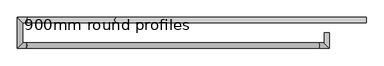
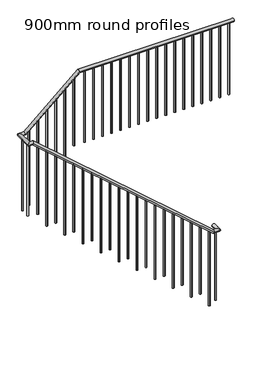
"""IFC4 building model written with IfcOpenShell, lengths in millimetres: railing geometry, 900mm round profiles."""

from ifc_helpers import new_model, si_unit, point, frame, frame_2d, origin, origin_with_axes, place, context, project, spatial, circle_curve, ellipse_curve, trimmed, segment, composite_curve, outline, extrude, source, transform, mapped, element, save
from ifc_brep_helpers import plane_surface, cylinder_surface, advanced_brep


def railing_900mm_round_profiles_ab87f60b(model_context):
    return source(origin(), model_context, "Body", "SolidModel", [
        advanced_brep(
        [(8280.0, 5880.0, 3580.0), (8280.0, 5840.0, 3580.0), (6312.4795013, 5880.0, 3580.0), (6312.4795013, 5840.0, 3580.0), (5622.4795013, 5880.0, 2980.0), (5622.4795013, 5840.0, 2980.0), (5540.0, 5880.0, 2980.0), (5580.0, 5840.0, 2980.0), (5540.0, 5640.0, 2980.0), (5580.0, 5680.0, 2980.0), (5607.5204987, 5680.0, 2980.0), (5607.5204987, 5640.0, 2980.0), (7907.5204987, 5640.0, 980.0), (7907.5204987, 5680.0, 980.0), (7990.0, 5760.0, 980.0), (7950.0, 5760.0, 980.0), (7950.0, 5680.0, 980.0), (7990.0, 5640.0, 980.0)],
        [
            (0, 1, circle_curve(frame((8280.0, 5860.0, 3580.0), z_axis=(1.0, 0.0, 0.0), x_axis=(0.0, -1.0, 0.0)), 20.0)),
            (1, 0, circle_curve(frame((8280.0, 5860.0, 3580.0), z_axis=(1.0, 0.0, 0.0), x_axis=(0.0, -1.0, 0.0)), 20.0)),
            (0, 2),
            (2, 3, ellipse_curve(frame((6312.4795013, 5860.0, 3580.0), z_axis=(0.9366444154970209, 0.0, 0.35028165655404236), x_axis=(0.35028165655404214, 0.0, -0.9366444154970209)), 21.3528204, 20.0)),
            (3, 1),
            (3, 2, ellipse_curve(frame((6312.4795013, 5860.0, 3580.0), z_axis=(0.9366444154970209, 0.0, 0.35028165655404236), x_axis=(0.35028165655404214, 0.0, -0.9366444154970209)), 21.3528204, 20.0)),
            (2, 4),
            (4, 5, ellipse_curve(frame((5622.4795013, 5860.0, 2980.0), z_axis=(0.9366444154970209, 0.0, 0.35028165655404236), x_axis=(-0.3502816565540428, 0.0, 0.9366444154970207)), 21.3528204, 20.0)),
            (5, 3),
            (5, 4, ellipse_curve(frame((5622.4795013, 5860.0, 2980.0), z_axis=(0.9366444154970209, 0.0, 0.35028165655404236), x_axis=(-0.3502816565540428, 0.0, 0.9366444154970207)), 21.3528204, 20.0)),
            (4, 6),
            (6, 7, ellipse_curve(frame((5560.0, 5860.0, 2980.0), z_axis=(0.7071067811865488, 0.7071067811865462, 0.0), x_axis=(0.7071067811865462, -0.7071067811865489, 0.0)), 28.2842712, 20.0)),
            (7, 5),
            (7, 6, ellipse_curve(frame((5560.0, 5860.0, 2980.0), z_axis=(0.7071067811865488, 0.7071067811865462, 0.0), x_axis=(0.7071067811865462, -0.7071067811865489, 0.0)), 28.2842712, 20.0)),
            (6, 8),
            (8, 9, ellipse_curve(frame((5560.0, 5660.0, 2980.0), z_axis=(-0.7071067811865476, 0.7071067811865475, 0.0), x_axis=(0.7071067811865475, 0.7071067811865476, 0.0)), 28.2842712, 20.0)),
            (9, 7),
            (9, 8, ellipse_curve(frame((5560.0, 5660.0, 2980.0), z_axis=(-0.7071067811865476, 0.7071067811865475, 0.0), x_axis=(0.7071067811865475, 0.7071067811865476, 0.0)), 28.2842712, 20.0)),
            (10, 11, ellipse_curve(frame((5607.5204987, 5660.0, 2980.0), z_axis=(0.9366444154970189, 0.0, -0.35028165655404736), x_axis=(0.350281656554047, 0.0, 0.9366444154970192)), 21.3528204, 20.0)),
            (11, 12),
            (12, 13, ellipse_curve(frame((7907.5204987, 5660.0, 980.0), z_axis=(-0.9366444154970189, 0.0, 0.35028165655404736), x_axis=(0.350281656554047, 0.0, 0.9366444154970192)), 21.3528204, 20.0)),
            (13, 10),
            (11, 10, ellipse_curve(frame((5607.5204987, 5660.0, 2980.0), z_axis=(0.9366444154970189, 0.0, -0.35028165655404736), x_axis=(0.350281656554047, 0.0, 0.9366444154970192)), 21.3528204, 20.0)),
            (13, 12, ellipse_curve(frame((7907.5204987, 5660.0, 980.0), z_axis=(-0.9366444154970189, 0.0, 0.35028165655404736), x_axis=(0.350281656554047, 0.0, 0.9366444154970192)), 21.3528204, 20.0)),
            (8, 11),
            (10, 9),
            (14, 15, circle_curve(frame((7970.0, 5760.0, 980.0), z_axis=(0.0, 1.0, 0.0), x_axis=(-1.0, 0.0, 0.0)), 20.0)),
            (15, 14, circle_curve(frame((7970.0, 5760.0, 980.0), z_axis=(0.0, 1.0, 0.0), x_axis=(-1.0, 0.0, 0.0)), 20.0)),
            (16, 17, ellipse_curve(frame((7970.0, 5660.0, 980.0), z_axis=(0.7071067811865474, 0.7071067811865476, 0.0), x_axis=(0.7071067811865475, -0.7071067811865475, 0.0)), 28.2842712, 20.0)),
            (17, 14),
            (15, 16),
            (17, 16, ellipse_curve(frame((7970.0, 5660.0, 980.0), z_axis=(0.7071067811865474, 0.7071067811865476, 0.0), x_axis=(0.7071067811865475, -0.7071067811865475, 0.0)), 28.2842712, 20.0)),
            (12, 17),
            (16, 13),
        ],
        [
            plane_surface(frame((8280.0, 5860.0, 3600.0), z_axis=(1.0, 0.0, 0.0), x_axis=(0.0, -1.0, 0.0))),
            cylinder_surface(frame((8280.0, 5860.0, 3580.0), z_axis=(1.0, 0.0, 0.0), x_axis=(0.0, -1.0, 0.0)), 20.0),
            cylinder_surface(frame((6318.1235743, 5860.0, 3584.9078896), z_axis=(0.7546055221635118, 0.0, 0.6561787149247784), x_axis=(0.0, -1.0, 0.0)), 20.0),
            cylinder_surface(frame((5615.0, 5860.0, 2980.0), z_axis=(1.0, 0.0, 0.0), x_axis=(0.0, -1.0, 0.0)), 20.0),
            cylinder_surface(frame((5560.0, 5860.0, 2980.0), z_axis=(0.0, 1.0, 0.0), x_axis=(1.0, 0.0, 0.0)), 20.0),
            cylinder_surface(frame((5601.8764257, 5660.0, 2984.9078896), z_axis=(-0.7546055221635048, 0.0, 0.6561787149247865), x_axis=(0.0, 1.0, 0.0)), 20.0),
            cylinder_surface(frame((5560.0, 5660.0, 2980.0), z_axis=(-1.0, 0.0, 0.0), x_axis=(0.0, 1.0, 0.0)), 20.0),
            plane_surface(frame((7970.0, 5760.0, 1000.0), z_axis=(0.0, 1.0, 0.0), x_axis=(0.0, 0.0, 1.0))),
            cylinder_surface(frame((7970.0, 5660.0, 980.0), z_axis=(0.0, -1.0, 0.0), x_axis=(-1.0, 0.0, 0.0)), 20.0),
            cylinder_surface(frame((7915.0, 5660.0, 980.0), z_axis=(-1.0, 0.0, 0.0), x_axis=(0.0, 1.0, 0.0)), 20.0),
        ],
        [
            (0, [[1, 2]]),
            (1, [[-1, 3, 4, 5]]),
            (1, [[-2, -5, 6, -3]]),
            (2, [[-4, 7, 8, 9]]),
            (2, [[-6, -9, 10, -7]]),
            (3, [[-8, 11, 12, 13]]),
            (3, [[-10, -13, 14, -11]]),
            (4, [[-12, 15, 16, 17]]),
            (4, [[-14, -17, 18, -15]]),
            (5, [[19, 20, 21, 22]]),
            (5, [[23, -22, 24, -20]]),
            (6, [[-16, 25, -19, 26]]),
            (6, [[-18, -26, -23, -25]]),
            (7, [[27, 28]]),
            (8, [[29, 30, -28, 31]]),
            (8, [[32, -31, -27, -30]]),
            (9, [[-21, 33, -29, 34]]),
            (9, [[-24, -34, -32, -33]]),
        ],
    ),
        extrude(outline(composite_curve([segment(trimmed(circle_curve(frame_2d((7970.0, 5717.5)), 10.0), [point((7980.0, 5717.5))], [point((7960.0, 5717.5))], False, "CARTESIAN"), True, "CONTINUOUS"), segment(trimmed(circle_curve(frame_2d((7970.0, 5717.5)), 10.0), [point((7960.0, 5717.5))], [point((7980.0, 5717.5))], False, "CARTESIAN"), True, "CONTINUOUS")], self_intersect=False)), origin_with_axes(), (0.0, 0.0, 1.0), 960.0),
        advanced_brep(
        [(7857.5, 5670.0, 996.9921716), (7857.5, 5650.0, 996.9921716), (7857.5, 5650.0, 0.0), (7857.5, 5670.0, 0.0)],
        [
            (0, 1, ellipse_curve(frame((7857.5, 5660.0, 996.9921716), z_axis=(-0.6561787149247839, 0.0, -0.7546055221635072), x_axis=(-0.7546055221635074, 0.0, 0.6561787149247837)), 13.2519571, 10.0)),
            (1, 2),
            (2, 3, circle_curve(frame((7857.5, 5660.0, 0.0), z_axis=(0.0, 0.0, 1.0), x_axis=(0.0, -1.0, 0.0)), 10.0)),
            (3, 0),
            (3, 2, circle_curve(frame((7857.5, 5660.0, 0.0), z_axis=(0.0, 0.0, 1.0), x_axis=(0.0, -1.0, 0.0)), 10.0)),
            (1, 0, ellipse_curve(frame((7857.5, 5660.0, 996.9921716), z_axis=(-0.6561787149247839, 0.0, -0.7546055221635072), x_axis=(-0.7546055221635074, 0.0, 0.6561787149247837)), 13.2519571, 10.0)),
        ],
        [
            cylinder_surface(frame((7857.5, 5660.0, -100.0), z_axis=(0.0, 0.0, 1.0), x_axis=(0.0, -1.0, 0.0)), 10.0),
            plane_surface(frame((7877.5, 5640.0, 979.6008673), z_axis=(0.6561787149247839, 0.0, 0.7546055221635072), x_axis=(0.0, 1.0, 0.0))),
            plane_surface(frame((7837.5, 5640.0, 0.0), z_axis=(0.0, 0.0, -1.0), x_axis=(0.0, 1.0, 0.0))),
        ],
        [
            (0, [[1, 2, 3, 4]]),
            (0, [[5, -2, 6, -4]]),
            (1, [[-6, -1]]),
            (2, [[-5, -3]]),
        ],
    ),
        advanced_brep(
        [(7742.5, 5670.0, 1096.9921716), (7742.5, 5650.0, 1096.9921716), (7742.5, 5650.0, 200.0), (7742.5, 5670.0, 200.0)],
        [
            (0, 1, ellipse_curve(frame((7742.5, 5660.0, 1096.9921716), z_axis=(-0.6561787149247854, 0.0, -0.754605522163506), x_axis=(-0.754605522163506, 0.0, 0.656178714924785)), 13.2519571, 10.0)),
            (1, 2),
            (2, 3, circle_curve(frame((7742.5, 5660.0, 200.0), z_axis=(0.0, 0.0, 1.0), x_axis=(0.0, -1.0, 0.0)), 10.0)),
            (3, 0),
            (3, 2, circle_curve(frame((7742.5, 5660.0, 200.0), z_axis=(0.0, 0.0, 1.0), x_axis=(0.0, -1.0, 0.0)), 10.0)),
            (1, 0, ellipse_curve(frame((7742.5, 5660.0, 1096.9921716), z_axis=(-0.6561787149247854, 0.0, -0.754605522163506), x_axis=(-0.754605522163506, 0.0, 0.656178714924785)), 13.2519571, 10.0)),
        ],
        [
            cylinder_surface(frame((7742.5, 5660.0, 100.0), z_axis=(0.0, 0.0, 1.0), x_axis=(0.0, -1.0, 0.0)), 10.0),
            plane_surface(frame((7762.5, 5640.0, 1079.6008673), z_axis=(0.6561787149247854, 0.0, 0.754605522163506), x_axis=(0.0, 1.0, 0.0))),
            plane_surface(frame((7722.5, 5640.0, 200.0), z_axis=(0.0, 0.0, -1.0), x_axis=(0.0, 1.0, 0.0))),
        ],
        [
            (0, [[1, 2, 3, 4]]),
            (0, [[5, -2, 6, -4]]),
            (1, [[-6, -1]]),
            (2, [[-5, -3]]),
        ],
    ),
        advanced_brep(
        [(7627.5, 5670.0, 1196.9921716), (7627.5, 5650.0, 1196.9921716), (7627.5, 5650.0, 200.0), (7627.5, 5670.0, 200.0)],
        [
            (0, 1, ellipse_curve(frame((7627.5, 5660.0, 1196.9921716), z_axis=(-0.6561787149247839, 0.0, -0.7546055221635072), x_axis=(-0.7546055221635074, 0.0, 0.6561787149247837)), 13.2519571, 10.0)),
            (1, 2),
            (2, 3, circle_curve(frame((7627.5, 5660.0, 200.0), z_axis=(0.0, 0.0, 1.0), x_axis=(0.0, -1.0, 0.0)), 10.0)),
            (3, 0),
            (3, 2, circle_curve(frame((7627.5, 5660.0, 200.0), z_axis=(0.0, 0.0, 1.0), x_axis=(0.0, -1.0, 0.0)), 10.0)),
            (1, 0, ellipse_curve(frame((7627.5, 5660.0, 1196.9921716), z_axis=(-0.6561787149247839, 0.0, -0.7546055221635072), x_axis=(-0.7546055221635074, 0.0, 0.6561787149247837)), 13.2519571, 10.0)),
        ],
        [
            cylinder_surface(frame((7627.5, 5660.0, 100.0), z_axis=(0.0, 0.0, 1.0), x_axis=(0.0, -1.0, 0.0)), 10.0),
            plane_surface(frame((7647.5, 5640.0, 1179.6008673), z_axis=(0.6561787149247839, 0.0, 0.7546055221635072), x_axis=(0.0, 1.0, 0.0))),
            plane_surface(frame((7607.5, 5640.0, 200.0), z_axis=(0.0, 0.0, -1.0), x_axis=(0.0, 1.0, 0.0))),
        ],
        [
            (0, [[1, 2, 3, 4]]),
            (0, [[5, -2, 6, -4]]),
            (1, [[-6, -1]]),
            (2, [[-5, -3]]),
        ],
    ),
        advanced_brep(
        [(7512.5, 5670.0, 1296.9921716), (7512.5, 5650.0, 1296.9921716), (7512.5, 5650.0, 400.0), (7512.5, 5670.0, 400.0)],
        [
            (0, 1, ellipse_curve(frame((7512.5, 5660.0, 1296.9921716), z_axis=(-0.6561787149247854, 0.0, -0.754605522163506), x_axis=(-0.754605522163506, 0.0, 0.656178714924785)), 13.2519571, 10.0)),
            (1, 2),
            (2, 3, circle_curve(frame((7512.5, 5660.0, 400.0), z_axis=(0.0, 0.0, 1.0), x_axis=(0.0, -1.0, 0.0)), 10.0)),
            (3, 0),
            (3, 2, circle_curve(frame((7512.5, 5660.0, 400.0), z_axis=(0.0, 0.0, 1.0), x_axis=(0.0, -1.0, 0.0)), 10.0)),
            (1, 0, ellipse_curve(frame((7512.5, 5660.0, 1296.9921716), z_axis=(-0.6561787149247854, 0.0, -0.754605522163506), x_axis=(-0.754605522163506, 0.0, 0.656178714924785)), 13.2519571, 10.0)),
        ],
        [
            cylinder_surface(frame((7512.5, 5660.0, 300.0), z_axis=(0.0, 0.0, 1.0), x_axis=(0.0, -1.0, 0.0)), 10.0),
            plane_surface(frame((7532.5, 5640.0, 1279.6008673), z_axis=(0.6561787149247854, 0.0, 0.754605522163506), x_axis=(0.0, 1.0, 0.0))),
            plane_surface(frame((7492.5, 5640.0, 400.0), z_axis=(0.0, 0.0, -1.0), x_axis=(0.0, 1.0, 0.0))),
        ],
        [
            (0, [[1, 2, 3, 4]]),
            (0, [[5, -2, 6, -4]]),
            (1, [[-6, -1]]),
            (2, [[-5, -3]]),
        ],
    ),
        advanced_brep(
        [(7397.5, 5670.0, 1396.9921716), (7397.5, 5650.0, 1396.9921716), (7397.5, 5650.0, 400.0), (7397.5, 5670.0, 400.0)],
        [
            (0, 1, ellipse_curve(frame((7397.5, 5660.0, 1396.9921716), z_axis=(-0.6561787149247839, 0.0, -0.7546055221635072), x_axis=(-0.7546055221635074, 0.0, 0.6561787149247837)), 13.2519571, 10.0)),
            (1, 2),
            (2, 3, circle_curve(frame((7397.5, 5660.0, 400.0), z_axis=(0.0, 0.0, 1.0), x_axis=(0.0, -1.0, 0.0)), 10.0)),
            (3, 0),
            (3, 2, circle_curve(frame((7397.5, 5660.0, 400.0), z_axis=(0.0, 0.0, 1.0), x_axis=(0.0, -1.0, 0.0)), 10.0)),
            (1, 0, ellipse_curve(frame((7397.5, 5660.0, 1396.9921716), z_axis=(-0.6561787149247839, 0.0, -0.7546055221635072), x_axis=(-0.7546055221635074, 0.0, 0.6561787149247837)), 13.2519571, 10.0)),
        ],
        [
            cylinder_surface(frame((7397.5, 5660.0, 300.0), z_axis=(0.0, 0.0, 1.0), x_axis=(0.0, -1.0, 0.0)), 10.0),
            plane_surface(frame((7417.5, 5640.0, 1379.6008673), z_axis=(0.6561787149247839, 0.0, 0.7546055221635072), x_axis=(0.0, 1.0, 0.0))),
            plane_surface(frame((7377.5, 5640.0, 400.0), z_axis=(0.0, 0.0, -1.0), x_axis=(0.0, 1.0, 0.0))),
        ],
        [
            (0, [[1, 2, 3, 4]]),
            (0, [[5, -2, 6, -4]]),
            (1, [[-6, -1]]),
            (2, [[-5, -3]]),
        ],
    ),
        advanced_brep(
        [(7282.5, 5670.0, 1496.9921716), (7282.5, 5650.0, 1496.9921716), (7282.5, 5650.0, 600.0), (7282.5, 5670.0, 600.0)],
        [
            (0, 1, ellipse_curve(frame((7282.5, 5660.0, 1496.9921716), z_axis=(-0.6561787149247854, 0.0, -0.754605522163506), x_axis=(-0.754605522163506, 0.0, 0.656178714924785)), 13.2519571, 10.0)),
            (1, 2),
            (2, 3, circle_curve(frame((7282.5, 5660.0, 600.0), z_axis=(0.0, 0.0, 1.0), x_axis=(0.0, -1.0, 0.0)), 10.0)),
            (3, 0),
            (3, 2, circle_curve(frame((7282.5, 5660.0, 600.0), z_axis=(0.0, 0.0, 1.0), x_axis=(0.0, -1.0, 0.0)), 10.0)),
            (1, 0, ellipse_curve(frame((7282.5, 5660.0, 1496.9921716), z_axis=(-0.6561787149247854, 0.0, -0.754605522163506), x_axis=(-0.754605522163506, 0.0, 0.656178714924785)), 13.2519571, 10.0)),
        ],
        [
            cylinder_surface(frame((7282.5, 5660.0, 500.0), z_axis=(0.0, 0.0, 1.0), x_axis=(0.0, -1.0, 0.0)), 10.0),
            plane_surface(frame((7302.5, 5640.0, 1479.6008673), z_axis=(0.6561787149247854, 0.0, 0.754605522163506), x_axis=(0.0, 1.0, 0.0))),
            plane_surface(frame((7262.5, 5640.0, 600.0), z_axis=(0.0, 0.0, -1.0), x_axis=(0.0, 1.0, 0.0))),
        ],
        [
            (0, [[1, 2, 3, 4]]),
            (0, [[5, -2, 6, -4]]),
            (1, [[-6, -1]]),
            (2, [[-5, -3]]),
        ],
    ),
        advanced_brep(
        [(7167.5, 5670.0, 1596.9921716), (7167.5, 5650.0, 1596.9921716), (7167.5, 5650.0, 600.0), (7167.5, 5670.0, 600.0)],
        [
            (0, 1, ellipse_curve(frame((7167.5, 5660.0, 1596.9921716), z_axis=(-0.6561787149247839, 0.0, -0.7546055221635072), x_axis=(-0.7546055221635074, 0.0, 0.6561787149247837)), 13.2519571, 10.0)),
            (1, 2),
            (2, 3, circle_curve(frame((7167.5, 5660.0, 600.0), z_axis=(0.0, 0.0, 1.0), x_axis=(0.0, -1.0, 0.0)), 10.0)),
            (3, 0),
            (3, 2, circle_curve(frame((7167.5, 5660.0, 600.0), z_axis=(0.0, 0.0, 1.0), x_axis=(0.0, -1.0, 0.0)), 10.0)),
            (1, 0, ellipse_curve(frame((7167.5, 5660.0, 1596.9921716), z_axis=(-0.6561787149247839, 0.0, -0.7546055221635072), x_axis=(-0.7546055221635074, 0.0, 0.6561787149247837)), 13.2519571, 10.0)),
        ],
        [
            cylinder_surface(frame((7167.5, 5660.0, 500.0), z_axis=(0.0, 0.0, 1.0), x_axis=(0.0, -1.0, 0.0)), 10.0),
            plane_surface(frame((7187.5, 5640.0, 1579.6008673), z_axis=(0.6561787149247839, 0.0, 0.7546055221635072), x_axis=(0.0, 1.0, 0.0))),
            plane_surface(frame((7147.5, 5640.0, 600.0), z_axis=(0.0, 0.0, -1.0), x_axis=(0.0, 1.0, 0.0))),
        ],
        [
            (0, [[1, 2, 3, 4]]),
            (0, [[5, -2, 6, -4]]),
            (1, [[-6, -1]]),
            (2, [[-5, -3]]),
        ],
    ),
        advanced_brep(
        [(7052.5, 5670.0, 1696.9921716), (7052.5, 5650.0, 1696.9921716), (7052.5, 5650.0, 800.0), (7052.5, 5670.0, 800.0)],
        [
            (0, 1, ellipse_curve(frame((7052.5, 5660.0, 1696.9921716), z_axis=(-0.6561787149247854, 0.0, -0.754605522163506), x_axis=(-0.754605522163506, 0.0, 0.656178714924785)), 13.2519571, 10.0)),
            (1, 2),
            (2, 3, circle_curve(frame((7052.5, 5660.0, 800.0), z_axis=(0.0, 0.0, 1.0), x_axis=(0.0, -1.0, 0.0)), 10.0)),
            (3, 0),
            (3, 2, circle_curve(frame((7052.5, 5660.0, 800.0), z_axis=(0.0, 0.0, 1.0), x_axis=(0.0, -1.0, 0.0)), 10.0)),
            (1, 0, ellipse_curve(frame((7052.5, 5660.0, 1696.9921716), z_axis=(-0.6561787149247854, 0.0, -0.754605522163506), x_axis=(-0.754605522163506, 0.0, 0.656178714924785)), 13.2519571, 10.0)),
        ],
        [
            cylinder_surface(frame((7052.5, 5660.0, 700.0), z_axis=(0.0, 0.0, 1.0), x_axis=(0.0, -1.0, 0.0)), 10.0),
            plane_surface(frame((7072.5, 5640.0, 1679.6008673), z_axis=(0.6561787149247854, 0.0, 0.754605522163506), x_axis=(0.0, 1.0, 0.0))),
            plane_surface(frame((7032.5, 5640.0, 800.0), z_axis=(0.0, 0.0, -1.0), x_axis=(0.0, 1.0, 0.0))),
        ],
        [
            (0, [[1, 2, 3, 4]]),
            (0, [[5, -2, 6, -4]]),
            (1, [[-6, -1]]),
            (2, [[-5, -3]]),
        ],
    ),
        advanced_brep(
        [(6937.5, 5670.0, 1796.9921716), (6937.5, 5650.0, 1796.9921716), (6937.5, 5650.0, 800.0), (6937.5, 5670.0, 800.0)],
        [
            (0, 1, ellipse_curve(frame((6937.5, 5660.0, 1796.9921716), z_axis=(-0.6561787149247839, 0.0, -0.7546055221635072), x_axis=(-0.7546055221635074, 0.0, 0.6561787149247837)), 13.2519571, 10.0)),
            (1, 2),
            (2, 3, circle_curve(frame((6937.5, 5660.0, 800.0), z_axis=(0.0, 0.0, 1.0), x_axis=(0.0, -1.0, 0.0)), 10.0)),
            (3, 0),
            (3, 2, circle_curve(frame((6937.5, 5660.0, 800.0), z_axis=(0.0, 0.0, 1.0), x_axis=(0.0, -1.0, 0.0)), 10.0)),
            (1, 0, ellipse_curve(frame((6937.5, 5660.0, 1796.9921716), z_axis=(-0.6561787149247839, 0.0, -0.7546055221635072), x_axis=(-0.7546055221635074, 0.0, 0.6561787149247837)), 13.2519571, 10.0)),
        ],
        [
            cylinder_surface(frame((6937.5, 5660.0, 700.0), z_axis=(0.0, 0.0, 1.0), x_axis=(0.0, -1.0, 0.0)), 10.0),
            plane_surface(frame((6957.5, 5640.0, 1779.6008673), z_axis=(0.6561787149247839, 0.0, 0.7546055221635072), x_axis=(0.0, 1.0, 0.0))),
            plane_surface(frame((6917.5, 5640.0, 800.0), z_axis=(0.0, 0.0, -1.0), x_axis=(0.0, 1.0, 0.0))),
        ],
        [
            (0, [[1, 2, 3, 4]]),
            (0, [[5, -2, 6, -4]]),
            (1, [[-6, -1]]),
            (2, [[-5, -3]]),
        ],
    ),
        advanced_brep(
        [(6822.5, 5670.0, 1896.9921716), (6822.5, 5650.0, 1896.9921716), (6822.5, 5650.0, 1000.0), (6822.5, 5670.0, 1000.0)],
        [
            (0, 1, ellipse_curve(frame((6822.5, 5660.0, 1896.9921716), z_axis=(-0.6561787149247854, 0.0, -0.754605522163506), x_axis=(-0.754605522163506, 0.0, 0.656178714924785)), 13.2519571, 10.0)),
            (1, 2),
            (2, 3, circle_curve(frame((6822.5, 5660.0, 1000.0), z_axis=(0.0, 0.0, 1.0), x_axis=(0.0, -1.0, 0.0)), 10.0)),
            (3, 0),
            (3, 2, circle_curve(frame((6822.5, 5660.0, 1000.0), z_axis=(0.0, 0.0, 1.0), x_axis=(0.0, -1.0, 0.0)), 10.0)),
            (1, 0, ellipse_curve(frame((6822.5, 5660.0, 1896.9921716), z_axis=(-0.6561787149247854, 0.0, -0.754605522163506), x_axis=(-0.754605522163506, 0.0, 0.656178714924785)), 13.2519571, 10.0)),
        ],
        [
            cylinder_surface(frame((6822.5, 5660.0, 900.0), z_axis=(0.0, 0.0, 1.0), x_axis=(0.0, -1.0, 0.0)), 10.0),
            plane_surface(frame((6842.5, 5640.0, 1879.6008673), z_axis=(0.6561787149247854, 0.0, 0.754605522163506), x_axis=(0.0, 1.0, 0.0))),
            plane_surface(frame((6802.5, 5640.0, 1000.0), z_axis=(0.0, 0.0, -1.0), x_axis=(0.0, 1.0, 0.0))),
        ],
        [
            (0, [[1, 2, 3, 4]]),
            (0, [[5, -2, 6, -4]]),
            (1, [[-6, -1]]),
            (2, [[-5, -3]]),
        ],
    ),
        advanced_brep(
        [(6707.5, 5670.0, 1996.9921716), (6707.5, 5650.0, 1996.9921716), (6707.5, 5650.0, 1000.0), (6707.5, 5670.0, 1000.0)],
        [
            (0, 1, ellipse_curve(frame((6707.5, 5660.0, 1996.9921716), z_axis=(-0.6561787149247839, 0.0, -0.7546055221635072), x_axis=(-0.7546055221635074, 0.0, 0.6561787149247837)), 13.2519571, 10.0)),
            (1, 2),
            (2, 3, circle_curve(frame((6707.5, 5660.0, 1000.0), z_axis=(0.0, 0.0, 1.0), x_axis=(0.0, -1.0, 0.0)), 10.0)),
            (3, 0),
            (3, 2, circle_curve(frame((6707.5, 5660.0, 1000.0), z_axis=(0.0, 0.0, 1.0), x_axis=(0.0, -1.0, 0.0)), 10.0)),
            (1, 0, ellipse_curve(frame((6707.5, 5660.0, 1996.9921716), z_axis=(-0.6561787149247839, 0.0, -0.7546055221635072), x_axis=(-0.7546055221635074, 0.0, 0.6561787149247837)), 13.2519571, 10.0)),
        ],
        [
            cylinder_surface(frame((6707.5, 5660.0, 900.0), z_axis=(0.0, 0.0, 1.0), x_axis=(0.0, -1.0, 0.0)), 10.0),
            plane_surface(frame((6727.5, 5640.0, 1979.6008673), z_axis=(0.6561787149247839, 0.0, 0.7546055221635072), x_axis=(0.0, 1.0, 0.0))),
            plane_surface(frame((6687.5, 5640.0, 1000.0), z_axis=(0.0, 0.0, -1.0), x_axis=(0.0, 1.0, 0.0))),
        ],
        [
            (0, [[1, 2, 3, 4]]),
            (0, [[5, -2, 6, -4]]),
            (1, [[-6, -1]]),
            (2, [[-5, -3]]),
        ],
    ),
        advanced_brep(
        [(6592.5, 5670.0, 2096.9921716), (6592.5, 5650.0, 2096.9921716), (6592.5, 5650.0, 1200.0), (6592.5, 5670.0, 1200.0)],
        [
            (0, 1, ellipse_curve(frame((6592.5, 5660.0, 2096.9921716), z_axis=(-0.6561787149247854, 0.0, -0.754605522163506), x_axis=(-0.754605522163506, 0.0, 0.656178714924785)), 13.2519571, 10.0)),
            (1, 2),
            (2, 3, circle_curve(frame((6592.5, 5660.0, 1200.0), z_axis=(0.0, 0.0, 1.0), x_axis=(0.0, -1.0, 0.0)), 10.0)),
            (3, 0),
            (3, 2, circle_curve(frame((6592.5, 5660.0, 1200.0), z_axis=(0.0, 0.0, 1.0), x_axis=(0.0, -1.0, 0.0)), 10.0)),
            (1, 0, ellipse_curve(frame((6592.5, 5660.0, 2096.9921716), z_axis=(-0.6561787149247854, 0.0, -0.754605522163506), x_axis=(-0.754605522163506, 0.0, 0.656178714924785)), 13.2519571, 10.0)),
        ],
        [
            cylinder_surface(frame((6592.5, 5660.0, 1100.0), z_axis=(0.0, 0.0, 1.0), x_axis=(0.0, -1.0, 0.0)), 10.0),
            plane_surface(frame((6612.5, 5640.0, 2079.6008673), z_axis=(0.6561787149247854, 0.0, 0.754605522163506), x_axis=(0.0, 1.0, 0.0))),
            plane_surface(frame((6572.5, 5640.0, 1200.0), z_axis=(0.0, 0.0, -1.0), x_axis=(0.0, 1.0, 0.0))),
        ],
        [
            (0, [[1, 2, 3, 4]]),
            (0, [[5, -2, 6, -4]]),
            (1, [[-6, -1]]),
            (2, [[-5, -3]]),
        ],
    ),
        advanced_brep(
        [(6477.5, 5670.0, 2196.9921716), (6477.5, 5650.0, 2196.9921716), (6477.5, 5650.0, 1200.0), (6477.5, 5670.0, 1200.0)],
        [
            (0, 1, ellipse_curve(frame((6477.5, 5660.0, 2196.9921716), z_axis=(-0.6561787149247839, 0.0, -0.7546055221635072), x_axis=(-0.7546055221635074, 0.0, 0.6561787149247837)), 13.2519571, 10.0)),
            (1, 2),
            (2, 3, circle_curve(frame((6477.5, 5660.0, 1200.0), z_axis=(0.0, 0.0, 1.0), x_axis=(0.0, -1.0, 0.0)), 10.0)),
            (3, 0),
            (3, 2, circle_curve(frame((6477.5, 5660.0, 1200.0), z_axis=(0.0, 0.0, 1.0), x_axis=(0.0, -1.0, 0.0)), 10.0)),
            (1, 0, ellipse_curve(frame((6477.5, 5660.0, 2196.9921716), z_axis=(-0.6561787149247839, 0.0, -0.7546055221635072), x_axis=(-0.7546055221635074, 0.0, 0.6561787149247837)), 13.2519571, 10.0)),
        ],
        [
            cylinder_surface(frame((6477.5, 5660.0, 1100.0), z_axis=(0.0, 0.0, 1.0), x_axis=(0.0, -1.0, 0.0)), 10.0),
            plane_surface(frame((6497.5, 5640.0, 2179.6008673), z_axis=(0.6561787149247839, 0.0, 0.7546055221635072), x_axis=(0.0, 1.0, 0.0))),
            plane_surface(frame((6457.5, 5640.0, 1200.0), z_axis=(0.0, 0.0, -1.0), x_axis=(0.0, 1.0, 0.0))),
        ],
        [
            (0, [[1, 2, 3, 4]]),
            (0, [[5, -2, 6, -4]]),
            (1, [[-6, -1]]),
            (2, [[-5, -3]]),
        ],
    ),
        advanced_brep(
        [(6362.5, 5670.0, 2296.9921716), (6362.5, 5650.0, 2296.9921716), (6362.5, 5650.0, 1400.0), (6362.5, 5670.0, 1400.0)],
        [
            (0, 1, ellipse_curve(frame((6362.5, 5660.0, 2296.9921716), z_axis=(-0.6561787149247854, 0.0, -0.754605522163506), x_axis=(-0.754605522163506, 0.0, 0.656178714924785)), 13.2519571, 10.0)),
            (1, 2),
            (2, 3, circle_curve(frame((6362.5, 5660.0, 1400.0), z_axis=(0.0, 0.0, 1.0), x_axis=(0.0, -1.0, 0.0)), 10.0)),
            (3, 0),
            (3, 2, circle_curve(frame((6362.5, 5660.0, 1400.0), z_axis=(0.0, 0.0, 1.0), x_axis=(0.0, -1.0, 0.0)), 10.0)),
            (1, 0, ellipse_curve(frame((6362.5, 5660.0, 2296.9921716), z_axis=(-0.6561787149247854, 0.0, -0.754605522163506), x_axis=(-0.754605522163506, 0.0, 0.656178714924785)), 13.2519571, 10.0)),
        ],
        [
            cylinder_surface(frame((6362.5, 5660.0, 1300.0), z_axis=(0.0, 0.0, 1.0), x_axis=(0.0, -1.0, 0.0)), 10.0),
            plane_surface(frame((6382.5, 5640.0, 2279.6008673), z_axis=(0.6561787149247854, 0.0, 0.754605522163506), x_axis=(0.0, 1.0, 0.0))),
            plane_surface(frame((6342.5, 5640.0, 1400.0), z_axis=(0.0, 0.0, -1.0), x_axis=(0.0, 1.0, 0.0))),
        ],
        [
            (0, [[1, 2, 3, 4]]),
            (0, [[5, -2, 6, -4]]),
            (1, [[-6, -1]]),
            (2, [[-5, -3]]),
        ],
    ),
        advanced_brep(
        [(6247.5, 5670.0, 2396.9921716), (6247.5, 5650.0, 2396.9921716), (6247.5, 5650.0, 1400.0), (6247.5, 5670.0, 1400.0)],
        [
            (0, 1, ellipse_curve(frame((6247.5, 5660.0, 2396.9921716), z_axis=(-0.6561787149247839, 0.0, -0.7546055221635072), x_axis=(-0.7546055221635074, 0.0, 0.6561787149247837)), 13.2519571, 10.0)),
            (1, 2),
            (2, 3, circle_curve(frame((6247.5, 5660.0, 1400.0), z_axis=(0.0, 0.0, 1.0), x_axis=(0.0, -1.0, 0.0)), 10.0)),
            (3, 0),
            (3, 2, circle_curve(frame((6247.5, 5660.0, 1400.0), z_axis=(0.0, 0.0, 1.0), x_axis=(0.0, -1.0, 0.0)), 10.0)),
            (1, 0, ellipse_curve(frame((6247.5, 5660.0, 2396.9921716), z_axis=(-0.6561787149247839, 0.0, -0.7546055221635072), x_axis=(-0.7546055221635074, 0.0, 0.6561787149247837)), 13.2519571, 10.0)),
        ],
        [
            cylinder_surface(frame((6247.5, 5660.0, 1300.0), z_axis=(0.0, 0.0, 1.0), x_axis=(0.0, -1.0, 0.0)), 10.0),
            plane_surface(frame((6267.5, 5640.0, 2379.6008673), z_axis=(0.6561787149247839, 0.0, 0.7546055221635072), x_axis=(0.0, 1.0, 0.0))),
            plane_surface(frame((6227.5, 5640.0, 1400.0), z_axis=(0.0, 0.0, -1.0), x_axis=(0.0, 1.0, 0.0))),
        ],
        [
            (0, [[1, 2, 3, 4]]),
            (0, [[5, -2, 6, -4]]),
            (1, [[-6, -1]]),
            (2, [[-5, -3]]),
        ],
    ),
        advanced_brep(
        [(6132.5, 5670.0, 2496.9921716), (6132.5, 5650.0, 2496.9921716), (6132.5, 5650.0, 1600.0), (6132.5, 5670.0, 1600.0)],
        [
            (0, 1, ellipse_curve(frame((6132.5, 5660.0, 2496.9921716), z_axis=(-0.6561787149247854, 0.0, -0.754605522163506), x_axis=(-0.754605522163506, 0.0, 0.656178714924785)), 13.2519571, 10.0)),
            (1, 2),
            (2, 3, circle_curve(frame((6132.5, 5660.0, 1600.0), z_axis=(0.0, 0.0, 1.0), x_axis=(0.0, -1.0, 0.0)), 10.0)),
            (3, 0),
            (3, 2, circle_curve(frame((6132.5, 5660.0, 1600.0), z_axis=(0.0, 0.0, 1.0), x_axis=(0.0, -1.0, 0.0)), 10.0)),
            (1, 0, ellipse_curve(frame((6132.5, 5660.0, 2496.9921716), z_axis=(-0.6561787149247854, 0.0, -0.754605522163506), x_axis=(-0.754605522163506, 0.0, 0.656178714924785)), 13.2519571, 10.0)),
        ],
        [
            cylinder_surface(frame((6132.5, 5660.0, 1500.0), z_axis=(0.0, 0.0, 1.0), x_axis=(0.0, -1.0, 0.0)), 10.0),
            plane_surface(frame((6152.5, 5640.0, 2479.6008673), z_axis=(0.6561787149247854, 0.0, 0.754605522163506), x_axis=(0.0, 1.0, 0.0))),
            plane_surface(frame((6112.5, 5640.0, 1600.0), z_axis=(0.0, 0.0, -1.0), x_axis=(0.0, 1.0, 0.0))),
        ],
        [
            (0, [[1, 2, 3, 4]]),
            (0, [[5, -2, 6, -4]]),
            (1, [[-6, -1]]),
            (2, [[-5, -3]]),
        ],
    ),
        advanced_brep(
        [(6017.5, 5670.0, 2596.9921716), (6017.5, 5650.0, 2596.9921716), (6017.5, 5650.0, 1600.0), (6017.5, 5670.0, 1600.0)],
        [
            (0, 1, ellipse_curve(frame((6017.5, 5660.0, 2596.9921716), z_axis=(-0.6561787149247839, 0.0, -0.7546055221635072), x_axis=(-0.7546055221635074, 0.0, 0.6561787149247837)), 13.2519571, 10.0)),
            (1, 2),
            (2, 3, circle_curve(frame((6017.5, 5660.0, 1600.0), z_axis=(0.0, 0.0, 1.0), x_axis=(0.0, -1.0, 0.0)), 10.0)),
            (3, 0),
            (3, 2, circle_curve(frame((6017.5, 5660.0, 1600.0), z_axis=(0.0, 0.0, 1.0), x_axis=(0.0, -1.0, 0.0)), 10.0)),
            (1, 0, ellipse_curve(frame((6017.5, 5660.0, 2596.9921716), z_axis=(-0.6561787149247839, 0.0, -0.7546055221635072), x_axis=(-0.7546055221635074, 0.0, 0.6561787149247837)), 13.2519571, 10.0)),
        ],
        [
            cylinder_surface(frame((6017.5, 5660.0, 1500.0), z_axis=(0.0, 0.0, 1.0), x_axis=(0.0, -1.0, 0.0)), 10.0),
            plane_surface(frame((6037.5, 5640.0, 2579.6008673), z_axis=(0.6561787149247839, 0.0, 0.7546055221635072), x_axis=(0.0, 1.0, 0.0))),
            plane_surface(frame((5997.5, 5640.0, 1600.0), z_axis=(0.0, 0.0, -1.0), x_axis=(0.0, 1.0, 0.0))),
        ],
        [
            (0, [[1, 2, 3, 4]]),
            (0, [[5, -2, 6, -4]]),
            (1, [[-6, -1]]),
            (2, [[-5, -3]]),
        ],
    ),
        advanced_brep(
        [(5902.5, 5670.0, 2696.9921716), (5902.5, 5650.0, 2696.9921716), (5902.5, 5650.0, 1800.0), (5902.5, 5670.0, 1800.0)],
        [
            (0, 1, ellipse_curve(frame((5902.5, 5660.0, 2696.9921716), z_axis=(-0.6561787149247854, 0.0, -0.754605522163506), x_axis=(-0.754605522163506, 0.0, 0.656178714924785)), 13.2519571, 10.0)),
            (1, 2),
            (2, 3, circle_curve(frame((5902.5, 5660.0, 1800.0), z_axis=(0.0, 0.0, 1.0), x_axis=(0.0, -1.0, 0.0)), 10.0)),
            (3, 0),
            (3, 2, circle_curve(frame((5902.5, 5660.0, 1800.0), z_axis=(0.0, 0.0, 1.0), x_axis=(0.0, -1.0, 0.0)), 10.0)),
            (1, 0, ellipse_curve(frame((5902.5, 5660.0, 2696.9921716), z_axis=(-0.6561787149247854, 0.0, -0.754605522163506), x_axis=(-0.754605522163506, 0.0, 0.656178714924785)), 13.2519571, 10.0)),
        ],
        [
            cylinder_surface(frame((5902.5, 5660.0, 1700.0), z_axis=(0.0, 0.0, 1.0), x_axis=(0.0, -1.0, 0.0)), 10.0),
            plane_surface(frame((5922.5, 5640.0, 2679.6008673), z_axis=(0.6561787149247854, 0.0, 0.754605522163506), x_axis=(0.0, 1.0, 0.0))),
            plane_surface(frame((5882.5, 5640.0, 1800.0), z_axis=(0.0, 0.0, -1.0), x_axis=(0.0, 1.0, 0.0))),
        ],
        [
            (0, [[1, 2, 3, 4]]),
            (0, [[5, -2, 6, -4]]),
            (1, [[-6, -1]]),
            (2, [[-5, -3]]),
        ],
    ),
        advanced_brep(
        [(5787.5, 5670.0, 2796.9921716), (5787.5, 5650.0, 2796.9921716), (5787.5, 5650.0, 1800.0), (5787.5, 5670.0, 1800.0)],
        [
            (0, 1, ellipse_curve(frame((5787.5, 5660.0, 2796.9921716), z_axis=(-0.6561787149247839, 0.0, -0.7546055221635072), x_axis=(-0.7546055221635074, 0.0, 0.6561787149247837)), 13.2519571, 10.0)),
            (1, 2),
            (2, 3, circle_curve(frame((5787.5, 5660.0, 1800.0), z_axis=(0.0, 0.0, 1.0), x_axis=(0.0, -1.0, 0.0)), 10.0)),
            (3, 0),
            (3, 2, circle_curve(frame((5787.5, 5660.0, 1800.0), z_axis=(0.0, 0.0, 1.0), x_axis=(0.0, -1.0, 0.0)), 10.0)),
            (1, 0, ellipse_curve(frame((5787.5, 5660.0, 2796.9921716), z_axis=(-0.6561787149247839, 0.0, -0.7546055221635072), x_axis=(-0.7546055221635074, 0.0, 0.6561787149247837)), 13.2519571, 10.0)),
        ],
        [
            cylinder_surface(frame((5787.5, 5660.0, 1700.0), z_axis=(0.0, 0.0, 1.0), x_axis=(0.0, -1.0, 0.0)), 10.0),
            plane_surface(frame((5807.5, 5640.0, 2779.6008673), z_axis=(0.6561787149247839, 0.0, 0.7546055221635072), x_axis=(0.0, 1.0, 0.0))),
            plane_surface(frame((5767.5, 5640.0, 1800.0), z_axis=(0.0, 0.0, -1.0), x_axis=(0.0, 1.0, 0.0))),
        ],
        [
            (0, [[1, 2, 3, 4]]),
            (0, [[5, -2, 6, -4]]),
            (1, [[-6, -1]]),
            (2, [[-5, -3]]),
        ],
    ),
        advanced_brep(
        [(5672.5, 5670.0, 2896.9921716), (5672.5, 5650.0, 2896.9921716), (5672.5, 5650.0, 2000.0), (5672.5, 5670.0, 2000.0)],
        [
            (0, 1, ellipse_curve(frame((5672.5, 5660.0, 2896.9921716), z_axis=(-0.6561787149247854, 0.0, -0.754605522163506), x_axis=(-0.754605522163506, 0.0, 0.656178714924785)), 13.2519571, 10.0)),
            (1, 2),
            (2, 3, circle_curve(frame((5672.5, 5660.0, 2000.0), z_axis=(0.0, 0.0, 1.0), x_axis=(0.0, -1.0, 0.0)), 10.0)),
            (3, 0),
            (3, 2, circle_curve(frame((5672.5, 5660.0, 2000.0), z_axis=(0.0, 0.0, 1.0), x_axis=(0.0, -1.0, 0.0)), 10.0)),
            (1, 0, ellipse_curve(frame((5672.5, 5660.0, 2896.9921716), z_axis=(-0.6561787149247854, 0.0, -0.754605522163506), x_axis=(-0.754605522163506, 0.0, 0.656178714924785)), 13.2519571, 10.0)),
        ],
        [
            cylinder_surface(frame((5672.5, 5660.0, 1900.0), z_axis=(0.0, 0.0, 1.0), x_axis=(0.0, -1.0, 0.0)), 10.0),
            plane_surface(frame((5692.5, 5640.0, 2879.6008673), z_axis=(0.6561787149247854, 0.0, 0.754605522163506), x_axis=(0.0, 1.0, 0.0))),
            plane_surface(frame((5652.5, 5640.0, 2000.0), z_axis=(0.0, 0.0, -1.0), x_axis=(0.0, 1.0, 0.0))),
        ],
        [
            (0, [[1, 2, 3, 4]]),
            (0, [[5, -2, 6, -4]]),
            (1, [[-6, -1]]),
            (2, [[-5, -3]]),
        ],
    ),
        extrude(outline(composite_curve([segment(trimmed(circle_curve(frame_2d((5560.0, 5687.5)), 10.0), [point((5550.0, 5687.5))], [point((5570.0, 5687.5))], False, "CARTESIAN"), True, "CONTINUOUS"), segment(trimmed(circle_curve(frame_2d((5560.0, 5687.5)), 10.0), [point((5570.0, 5687.5))], [point((5550.0, 5687.5))], False, "CARTESIAN"), True, "CONTINUOUS")], self_intersect=False)), frame((0.0, 0.0, 2000.0), z_axis=(0.0, 0.0, 1.0), x_axis=(1.0, 0.0, 0.0)), (0.0, 0.0, 1.0), 960.0),
        extrude(outline(composite_curve([segment(trimmed(circle_curve(frame_2d((5560.0, 5802.5)), 10.0), [point((5550.0, 5802.5))], [point((5570.0, 5802.5))], False, "CARTESIAN"), True, "CONTINUOUS"), segment(trimmed(circle_curve(frame_2d((5560.0, 5802.5)), 10.0), [point((5570.0, 5802.5))], [point((5550.0, 5802.5))], False, "CARTESIAN"), True, "CONTINUOUS")], self_intersect=False)), frame((0.0, 0.0, 2000.0), z_axis=(0.0, 0.0, 1.0), x_axis=(1.0, 0.0, 0.0)), (0.0, 0.0, 1.0), 960.0),
        advanced_brep(
        [(5672.5, 5850.0, 2996.9921716), (5672.5, 5870.0, 2996.9921716), (5672.5, 5870.0, 2000.0), (5672.5, 5850.0, 2000.0)],
        [
            (0, 1, ellipse_curve(frame((5672.5, 5860.0, 2996.9921716), z_axis=(0.6561787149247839, 0.0, -0.7546055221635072), x_axis=(0.7546055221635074, 0.0, 0.6561787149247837)), 13.2519571, 10.0)),
            (1, 2),
            (2, 3, circle_curve(frame((5672.5, 5860.0, 2000.0), z_axis=(0.0, 0.0, 1.0), x_axis=(0.0, 1.0, 0.0)), 10.0)),
            (3, 0),
            (3, 2, circle_curve(frame((5672.5, 5860.0, 2000.0), z_axis=(0.0, 0.0, 1.0), x_axis=(0.0, 1.0, 0.0)), 10.0)),
            (1, 0, ellipse_curve(frame((5672.5, 5860.0, 2996.9921716), z_axis=(0.6561787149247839, 0.0, -0.7546055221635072), x_axis=(0.7546055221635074, 0.0, 0.6561787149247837)), 13.2519571, 10.0)),
        ],
        [
            cylinder_surface(frame((5672.5, 5860.0, 1900.0), z_axis=(0.0, 0.0, 1.0), x_axis=(0.0, 1.0, 0.0)), 10.0),
            plane_surface(frame((5652.5, 5880.0, 2979.6008673), z_axis=(-0.6561787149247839, 0.0, 0.7546055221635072), x_axis=(0.0, -1.0, 0.0))),
            plane_surface(frame((5692.5, 5880.0, 2000.0), z_axis=(0.0, 0.0, -1.0), x_axis=(0.0, -1.0, 0.0))),
        ],
        [
            (0, [[1, 2, 3, 4]]),
            (0, [[5, -2, 6, -4]]),
            (1, [[-6, -1]]),
            (2, [[-5, -3]]),
        ],
    ),
        advanced_brep(
        [(5787.5, 5850.0, 3096.9921716), (5787.5, 5870.0, 3096.9921716), (5787.5, 5870.0, 2200.0), (5787.5, 5850.0, 2200.0)],
        [
            (0, 1, ellipse_curve(frame((5787.5, 5860.0, 3096.9921716), z_axis=(0.6561787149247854, 0.0, -0.754605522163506), x_axis=(0.754605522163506, 0.0, 0.656178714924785)), 13.2519571, 10.0)),
            (1, 2),
            (2, 3, circle_curve(frame((5787.5, 5860.0, 2200.0), z_axis=(0.0, 0.0, 1.0), x_axis=(0.0, 1.0, 0.0)), 10.0)),
            (3, 0),
            (3, 2, circle_curve(frame((5787.5, 5860.0, 2200.0), z_axis=(0.0, 0.0, 1.0), x_axis=(0.0, 1.0, 0.0)), 10.0)),
            (1, 0, ellipse_curve(frame((5787.5, 5860.0, 3096.9921716), z_axis=(0.6561787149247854, 0.0, -0.754605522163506), x_axis=(0.754605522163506, 0.0, 0.656178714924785)), 13.2519571, 10.0)),
        ],
        [
            cylinder_surface(frame((5787.5, 5860.0, 2100.0), z_axis=(0.0, 0.0, 1.0), x_axis=(0.0, 1.0, 0.0)), 10.0),
            plane_surface(frame((5767.5, 5880.0, 3079.6008673), z_axis=(-0.6561787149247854, 0.0, 0.754605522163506), x_axis=(0.0, -1.0, 0.0))),
            plane_surface(frame((5807.5, 5880.0, 2200.0), z_axis=(0.0, 0.0, -1.0), x_axis=(0.0, -1.0, 0.0))),
        ],
        [
            (0, [[1, 2, 3, 4]]),
            (0, [[5, -2, 6, -4]]),
            (1, [[-6, -1]]),
            (2, [[-5, -3]]),
        ],
    ),
        advanced_brep(
        [(5902.5, 5850.0, 3196.9921716), (5902.5, 5870.0, 3196.9921716), (5902.5, 5870.0, 2200.0), (5902.5, 5850.0, 2200.0)],
        [
            (0, 1, ellipse_curve(frame((5902.5, 5860.0, 3196.9921716), z_axis=(0.6561787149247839, 0.0, -0.7546055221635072), x_axis=(0.7546055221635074, 0.0, 0.6561787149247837)), 13.2519571, 10.0)),
            (1, 2),
            (2, 3, circle_curve(frame((5902.5, 5860.0, 2200.0), z_axis=(0.0, 0.0, 1.0), x_axis=(0.0, 1.0, 0.0)), 10.0)),
            (3, 0),
            (3, 2, circle_curve(frame((5902.5, 5860.0, 2200.0), z_axis=(0.0, 0.0, 1.0), x_axis=(0.0, 1.0, 0.0)), 10.0)),
            (1, 0, ellipse_curve(frame((5902.5, 5860.0, 3196.9921716), z_axis=(0.6561787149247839, 0.0, -0.7546055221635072), x_axis=(0.7546055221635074, 0.0, 0.6561787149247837)), 13.2519571, 10.0)),
        ],
        [
            cylinder_surface(frame((5902.5, 5860.0, 2100.0), z_axis=(0.0, 0.0, 1.0), x_axis=(0.0, 1.0, 0.0)), 10.0),
            plane_surface(frame((5882.5, 5880.0, 3179.6008673), z_axis=(-0.6561787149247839, 0.0, 0.7546055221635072), x_axis=(0.0, -1.0, 0.0))),
            plane_surface(frame((5922.5, 5880.0, 2200.0), z_axis=(0.0, 0.0, -1.0), x_axis=(0.0, -1.0, 0.0))),
        ],
        [
            (0, [[1, 2, 3, 4]]),
            (0, [[5, -2, 6, -4]]),
            (1, [[-6, -1]]),
            (2, [[-5, -3]]),
        ],
    ),
        advanced_brep(
        [(6017.5, 5850.0, 3296.9921716), (6017.5, 5870.0, 3296.9921716), (6017.5, 5870.0, 2400.0), (6017.5, 5850.0, 2400.0)],
        [
            (0, 1, ellipse_curve(frame((6017.5, 5860.0, 3296.9921716), z_axis=(0.6561787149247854, 0.0, -0.754605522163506), x_axis=(0.754605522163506, 0.0, 0.656178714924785)), 13.2519571, 10.0)),
            (1, 2),
            (2, 3, circle_curve(frame((6017.5, 5860.0, 2400.0), z_axis=(0.0, 0.0, 1.0), x_axis=(0.0, 1.0, 0.0)), 10.0)),
            (3, 0),
            (3, 2, circle_curve(frame((6017.5, 5860.0, 2400.0), z_axis=(0.0, 0.0, 1.0), x_axis=(0.0, 1.0, 0.0)), 10.0)),
            (1, 0, ellipse_curve(frame((6017.5, 5860.0, 3296.9921716), z_axis=(0.6561787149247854, 0.0, -0.754605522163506), x_axis=(0.754605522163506, 0.0, 0.656178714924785)), 13.2519571, 10.0)),
        ],
        [
            cylinder_surface(frame((6017.5, 5860.0, 2300.0), z_axis=(0.0, 0.0, 1.0), x_axis=(0.0, 1.0, 0.0)), 10.0),
            plane_surface(frame((5997.5, 5880.0, 3279.6008673), z_axis=(-0.6561787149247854, 0.0, 0.754605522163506), x_axis=(0.0, -1.0, 0.0))),
            plane_surface(frame((6037.5, 5880.0, 2400.0), z_axis=(0.0, 0.0, -1.0), x_axis=(0.0, -1.0, 0.0))),
        ],
        [
            (0, [[1, 2, 3, 4]]),
            (0, [[5, -2, 6, -4]]),
            (1, [[-6, -1]]),
            (2, [[-5, -3]]),
        ],
    ),
        advanced_brep(
        [(6132.5, 5850.0, 3396.9921716), (6132.5, 5870.0, 3396.9921716), (6132.5, 5870.0, 2400.0), (6132.5, 5850.0, 2400.0)],
        [
            (0, 1, ellipse_curve(frame((6132.5, 5860.0, 3396.9921716), z_axis=(0.6561787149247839, 0.0, -0.7546055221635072), x_axis=(0.7546055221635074, 0.0, 0.6561787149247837)), 13.2519571, 10.0)),
            (1, 2),
            (2, 3, circle_curve(frame((6132.5, 5860.0, 2400.0), z_axis=(0.0, 0.0, 1.0), x_axis=(0.0, 1.0, 0.0)), 10.0)),
            (3, 0),
            (3, 2, circle_curve(frame((6132.5, 5860.0, 2400.0), z_axis=(0.0, 0.0, 1.0), x_axis=(0.0, 1.0, 0.0)), 10.0)),
            (1, 0, ellipse_curve(frame((6132.5, 5860.0, 3396.9921716), z_axis=(0.6561787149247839, 0.0, -0.7546055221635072), x_axis=(0.7546055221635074, 0.0, 0.6561787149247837)), 13.2519571, 10.0)),
        ],
        [
            cylinder_surface(frame((6132.5, 5860.0, 2300.0), z_axis=(0.0, 0.0, 1.0), x_axis=(0.0, 1.0, 0.0)), 10.0),
            plane_surface(frame((6112.5, 5880.0, 3379.6008673), z_axis=(-0.6561787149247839, 0.0, 0.7546055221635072), x_axis=(0.0, -1.0, 0.0))),
            plane_surface(frame((6152.5, 5880.0, 2400.0), z_axis=(0.0, 0.0, -1.0), x_axis=(0.0, -1.0, 0.0))),
        ],
        [
            (0, [[1, 2, 3, 4]]),
            (0, [[5, -2, 6, -4]]),
            (1, [[-6, -1]]),
            (2, [[-5, -3]]),
        ],
    ),
        advanced_brep(
        [(6247.5, 5850.0, 3496.9921716), (6247.5, 5870.0, 3496.9921716), (6247.5, 5870.0, 2600.0), (6247.5, 5850.0, 2600.0)],
        [
            (0, 1, ellipse_curve(frame((6247.5, 5860.0, 3496.9921716), z_axis=(0.6561787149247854, 0.0, -0.754605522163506), x_axis=(0.754605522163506, 0.0, 0.656178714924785)), 13.2519571, 10.0)),
            (1, 2),
            (2, 3, circle_curve(frame((6247.5, 5860.0, 2600.0), z_axis=(0.0, 0.0, 1.0), x_axis=(0.0, 1.0, 0.0)), 10.0)),
            (3, 0),
            (3, 2, circle_curve(frame((6247.5, 5860.0, 2600.0), z_axis=(0.0, 0.0, 1.0), x_axis=(0.0, 1.0, 0.0)), 10.0)),
            (1, 0, ellipse_curve(frame((6247.5, 5860.0, 3496.9921716), z_axis=(0.6561787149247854, 0.0, -0.754605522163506), x_axis=(0.754605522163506, 0.0, 0.656178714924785)), 13.2519571, 10.0)),
        ],
        [
            cylinder_surface(frame((6247.5, 5860.0, 2500.0), z_axis=(0.0, 0.0, 1.0), x_axis=(0.0, 1.0, 0.0)), 10.0),
            plane_surface(frame((6227.5, 5880.0, 3479.6008673), z_axis=(-0.6561787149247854, 0.0, 0.754605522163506), x_axis=(0.0, -1.0, 0.0))),
            plane_surface(frame((6267.5, 5880.0, 2600.0), z_axis=(0.0, 0.0, -1.0), x_axis=(0.0, -1.0, 0.0))),
        ],
        [
            (0, [[1, 2, 3, 4]]),
            (0, [[5, -2, 6, -4]]),
            (1, [[-6, -1]]),
            (2, [[-5, -3]]),
        ],
    ),
        extrude(outline(composite_curve([segment(trimmed(circle_curve(frame_2d((6382.5, 5860.0)), 10.0), [point((6382.5, 5870.0))], [point((6382.5, 5850.0))], False, "CARTESIAN"), True, "CONTINUOUS"), segment(trimmed(circle_curve(frame_2d((6382.5, 5860.0)), 10.0), [point((6382.5, 5850.0))], [point((6382.5, 5870.0))], False, "CARTESIAN"), True, "CONTINUOUS")], self_intersect=False)), frame((0.0, 0.0, 2600.0), z_axis=(0.0, 0.0, 1.0), x_axis=(1.0, 0.0, 0.0)), (0.0, 0.0, 1.0), 960.0),
        extrude(outline(composite_curve([segment(trimmed(circle_curve(frame_2d((6497.5, 5860.0)), 10.0), [point((6497.5, 5870.0))], [point((6497.5, 5850.0))], False, "CARTESIAN"), True, "CONTINUOUS"), segment(trimmed(circle_curve(frame_2d((6497.5, 5860.0)), 10.0), [point((6497.5, 5850.0))], [point((6497.5, 5870.0))], False, "CARTESIAN"), True, "CONTINUOUS")], self_intersect=False)), frame((0.0, 0.0, 2600.0), z_axis=(0.0, 0.0, 1.0), x_axis=(1.0, 0.0, 0.0)), (0.0, 0.0, 1.0), 960.0),
        extrude(outline(composite_curve([segment(trimmed(circle_curve(frame_2d((6612.5, 5860.0)), 10.0), [point((6612.5, 5870.0))], [point((6612.5, 5850.0))], False, "CARTESIAN"), True, "CONTINUOUS"), segment(trimmed(circle_curve(frame_2d((6612.5, 5860.0)), 10.0), [point((6612.5, 5850.0))], [point((6612.5, 5870.0))], False, "CARTESIAN"), True, "CONTINUOUS")], self_intersect=False)), frame((0.0, 0.0, 2600.0), z_axis=(0.0, 0.0, 1.0), x_axis=(1.0, 0.0, 0.0)), (0.0, 0.0, 1.0), 960.0),
        extrude(outline(composite_curve([segment(trimmed(circle_curve(frame_2d((6727.5, 5860.0)), 10.0), [point((6727.5, 5870.0))], [point((6727.5, 5850.0))], False, "CARTESIAN"), True, "CONTINUOUS"), segment(trimmed(circle_curve(frame_2d((6727.5, 5860.0)), 10.0), [point((6727.5, 5850.0))], [point((6727.5, 5870.0))], False, "CARTESIAN"), True, "CONTINUOUS")], self_intersect=False)), frame((0.0, 0.0, 2600.0), z_axis=(0.0, 0.0, 1.0), x_axis=(1.0, 0.0, 0.0)), (0.0, 0.0, 1.0), 960.0),
        extrude(outline(composite_curve([segment(trimmed(circle_curve(frame_2d((6842.5, 5860.0)), 10.0), [point((6842.5, 5870.0))], [point((6842.5, 5850.0))], False, "CARTESIAN"), True, "CONTINUOUS"), segment(trimmed(circle_curve(frame_2d((6842.5, 5860.0)), 10.0), [point((6842.5, 5850.0))], [point((6842.5, 5870.0))], False, "CARTESIAN"), True, "CONTINUOUS")], self_intersect=False)), frame((0.0, 0.0, 2600.0), z_axis=(0.0, 0.0, 1.0), x_axis=(1.0, 0.0, 0.0)), (0.0, 0.0, 1.0), 960.0),
        extrude(outline(composite_curve([segment(trimmed(circle_curve(frame_2d((6957.5, 5860.0)), 10.0), [point((6957.5, 5870.0))], [point((6957.5, 5850.0))], False, "CARTESIAN"), True, "CONTINUOUS"), segment(trimmed(circle_curve(frame_2d((6957.5, 5860.0)), 10.0), [point((6957.5, 5850.0))], [point((6957.5, 5870.0))], False, "CARTESIAN"), True, "CONTINUOUS")], self_intersect=False)), frame((0.0, 0.0, 2600.0), z_axis=(0.0, 0.0, 1.0), x_axis=(1.0, 0.0, 0.0)), (0.0, 0.0, 1.0), 960.0),
        extrude(outline(composite_curve([segment(trimmed(circle_curve(frame_2d((7072.5, 5860.0)), 10.0), [point((7072.5, 5870.0))], [point((7072.5, 5850.0))], False, "CARTESIAN"), True, "CONTINUOUS"), segment(trimmed(circle_curve(frame_2d((7072.5, 5860.0)), 10.0), [point((7072.5, 5850.0))], [point((7072.5, 5870.0))], False, "CARTESIAN"), True, "CONTINUOUS")], self_intersect=False)), frame((0.0, 0.0, 2600.0), z_axis=(0.0, 0.0, 1.0), x_axis=(1.0, 0.0, 0.0)), (0.0, 0.0, 1.0), 960.0),
        extrude(outline(composite_curve([segment(trimmed(circle_curve(frame_2d((7187.5, 5860.0)), 10.0), [point((7187.5, 5870.0))], [point((7187.5, 5850.0))], False, "CARTESIAN"), True, "CONTINUOUS"), segment(trimmed(circle_curve(frame_2d((7187.5, 5860.0)), 10.0), [point((7187.5, 5850.0))], [point((7187.5, 5870.0))], False, "CARTESIAN"), True, "CONTINUOUS")], self_intersect=False)), frame((0.0, 0.0, 2600.0), z_axis=(0.0, 0.0, 1.0), x_axis=(1.0, 0.0, 0.0)), (0.0, 0.0, 1.0), 960.0),
        extrude(outline(composite_curve([segment(trimmed(circle_curve(frame_2d((7302.5, 5860.0)), 10.0), [point((7302.5, 5870.0))], [point((7302.5, 5850.0))], False, "CARTESIAN"), True, "CONTINUOUS"), segment(trimmed(circle_curve(frame_2d((7302.5, 5860.0)), 10.0), [point((7302.5, 5850.0))], [point((7302.5, 5870.0))], False, "CARTESIAN"), True, "CONTINUOUS")], self_intersect=False)), frame((0.0, 0.0, 2600.0), z_axis=(0.0, 0.0, 1.0), x_axis=(1.0, 0.0, 0.0)), (0.0, 0.0, 1.0), 960.0),
        extrude(outline(composite_curve([segment(trimmed(circle_curve(frame_2d((7417.5, 5860.0)), 10.0), [point((7417.5, 5870.0))], [point((7417.5, 5850.0))], False, "CARTESIAN"), True, "CONTINUOUS"), segment(trimmed(circle_curve(frame_2d((7417.5, 5860.0)), 10.0), [point((7417.5, 5850.0))], [point((7417.5, 5870.0))], False, "CARTESIAN"), True, "CONTINUOUS")], self_intersect=False)), frame((0.0, 0.0, 2600.0), z_axis=(0.0, 0.0, 1.0), x_axis=(1.0, 0.0, 0.0)), (0.0, 0.0, 1.0), 960.0),
        extrude(outline(composite_curve([segment(trimmed(circle_curve(frame_2d((7532.5, 5860.0)), 10.0), [point((7532.5, 5870.0))], [point((7532.5, 5850.0))], False, "CARTESIAN"), True, "CONTINUOUS"), segment(trimmed(circle_curve(frame_2d((7532.5, 5860.0)), 10.0), [point((7532.5, 5850.0))], [point((7532.5, 5870.0))], False, "CARTESIAN"), True, "CONTINUOUS")], self_intersect=False)), frame((0.0, 0.0, 2600.0), z_axis=(0.0, 0.0, 1.0), x_axis=(1.0, 0.0, 0.0)), (0.0, 0.0, 1.0), 960.0),
        extrude(outline(composite_curve([segment(trimmed(circle_curve(frame_2d((7647.5, 5860.0)), 10.0), [point((7647.5, 5870.0))], [point((7647.5, 5850.0))], False, "CARTESIAN"), True, "CONTINUOUS"), segment(trimmed(circle_curve(frame_2d((7647.5, 5860.0)), 10.0), [point((7647.5, 5850.0))], [point((7647.5, 5870.0))], False, "CARTESIAN"), True, "CONTINUOUS")], self_intersect=False)), frame((0.0, 0.0, 2600.0), z_axis=(0.0, 0.0, 1.0), x_axis=(1.0, 0.0, 0.0)), (0.0, 0.0, 1.0), 960.0),
        extrude(outline(composite_curve([segment(trimmed(circle_curve(frame_2d((7762.5, 5860.0)), 10.0), [point((7762.5, 5870.0))], [point((7762.5, 5850.0))], False, "CARTESIAN"), True, "CONTINUOUS"), segment(trimmed(circle_curve(frame_2d((7762.5, 5860.0)), 10.0), [point((7762.5, 5850.0))], [point((7762.5, 5870.0))], False, "CARTESIAN"), True, "CONTINUOUS")], self_intersect=False)), frame((0.0, 0.0, 2600.0), z_axis=(0.0, 0.0, 1.0), x_axis=(1.0, 0.0, 0.0)), (0.0, 0.0, 1.0), 960.0),
        extrude(outline(composite_curve([segment(trimmed(circle_curve(frame_2d((7877.5, 5860.0)), 10.0), [point((7877.5, 5870.0))], [point((7877.5, 5850.0))], False, "CARTESIAN"), True, "CONTINUOUS"), segment(trimmed(circle_curve(frame_2d((7877.5, 5860.0)), 10.0), [point((7877.5, 5850.0))], [point((7877.5, 5870.0))], False, "CARTESIAN"), True, "CONTINUOUS")], self_intersect=False)), frame((0.0, 0.0, 2600.0), z_axis=(0.0, 0.0, 1.0), x_axis=(1.0, 0.0, 0.0)), (0.0, 0.0, 1.0), 960.0),
        extrude(outline(composite_curve([segment(trimmed(circle_curve(frame_2d((7992.5, 5860.0)), 10.0), [point((7992.5, 5870.0))], [point((7992.5, 5850.0))], False, "CARTESIAN"), True, "CONTINUOUS"), segment(trimmed(circle_curve(frame_2d((7992.5, 5860.0)), 10.0), [point((7992.5, 5850.0))], [point((7992.5, 5870.0))], False, "CARTESIAN"), True, "CONTINUOUS")], self_intersect=False)), frame((0.0, 0.0, 2600.0), z_axis=(0.0, 0.0, 1.0), x_axis=(1.0, 0.0, 0.0)), (0.0, 0.0, 1.0), 960.0),
        extrude(outline(composite_curve([segment(trimmed(circle_curve(frame_2d((8107.5, 5860.0)), 10.0), [point((8107.5, 5870.0))], [point((8107.5, 5850.0))], False, "CARTESIAN"), True, "CONTINUOUS"), segment(trimmed(circle_curve(frame_2d((8107.5, 5860.0)), 10.0), [point((8107.5, 5850.0))], [point((8107.5, 5870.0))], False, "CARTESIAN"), True, "CONTINUOUS")], self_intersect=False)), frame((0.0, 0.0, 2600.0), z_axis=(0.0, 0.0, 1.0), x_axis=(1.0, 0.0, 0.0)), (0.0, 0.0, 1.0), 960.0),
        extrude(outline(composite_curve([segment(trimmed(circle_curve(frame_2d((8222.5, 5860.0)), 10.0), [point((8222.5, 5870.0))], [point((8222.5, 5850.0))], False, "CARTESIAN"), True, "CONTINUOUS"), segment(trimmed(circle_curve(frame_2d((8222.5, 5860.0)), 10.0), [point((8222.5, 5850.0))], [point((8222.5, 5870.0))], False, "CARTESIAN"), True, "CONTINUOUS")], self_intersect=False)), frame((0.0, 0.0, 2600.0), z_axis=(0.0, 0.0, 1.0), x_axis=(1.0, 0.0, 0.0)), (0.0, 0.0, 1.0), 960.0),
    ])


if __name__ == "__main__":
    model = new_model("IFC4")
    model_context = context("Model", 3, world=origin())
    ifc_project = project(units=[si_unit("LENGTHUNIT", "METRE", prefix="MILLI")], contexts=[model_context])
    site = spatial("IfcSite", under=ifc_project)
    building = spatial("IfcBuilding", under=site)
    placement = place(None, origin())
    railing_900mm_round_profiles_shape = railing_900mm_round_profiles_ab87f60b(model_context)
    element("IfcRailing", 1, ObjectType="900mm round profiles", at=placement, inside=building, context=model_context, shape_type="MappedRepresentation", body=[
        mapped(railing_900mm_round_profiles_shape, transform((0.0, 0.0, 0.0), x_axis=(1.0, 0.0, 0.0), y_axis=(0.0, 1.0, 0.0), z_axis=(0.0, 0.0, 1.0))),
    ])
    save(model, "model.ifc")
